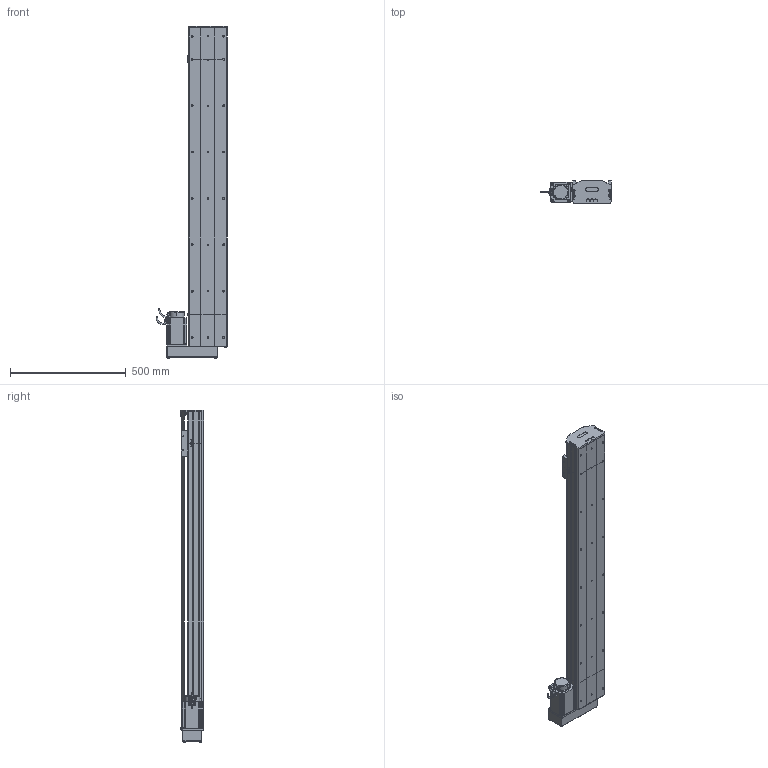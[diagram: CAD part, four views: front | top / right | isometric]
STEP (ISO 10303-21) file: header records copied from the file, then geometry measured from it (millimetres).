
FILE_DESCRIPTION (( 'STEP AP214' ), '1' );
FILE_NAME ('D17 TSN BR S1100.STEP', '2010-06-30T07:50:08', ( 'Christophe Gaillard' ), ( 'SGA' ), 'SwSTEP 2.0', 'SolidWorks 2010', '' );
FILE_SCHEMA (( 'AUTOMOTIVE_DESIGN' ));
Length unit declared in the file: millimetre
Products named in the file (33): tete d''axe haut D17; Conecteur2_Default; codeur 90BLDC125-640; avant 90BLDC125A-640; Moteur motionking 90BLDC125A-640; corps 90BLDC125A-640; vis M5 L5_Default; Arbre+rail head D17; plaque de  bout BM head D17_Default; vis M5 L25_Default; vis M5 L8 90°_Default; couvercle D17_Default; couvercle D17 head_Default; corpl head D17 BM_Default; head BR_Default; Arbre+rail tail D17; guide D17; vis M5 L12_Default; renvoi BR_Default; Vis M5 L16-2_Default; Chariot D17 TBN; chariot D17 TSN; Cvis M5 L70_Default; Conecteur_Default; arbre + rail D17 Course 1100 ; course 1100 D17_Default; D17 TSN BR S1100; Tail D17+L100_Default; couvercle D17 course L1100_Default; corp D17 1100_Default; tete d''axe bas D17; plaque de  bout tail D17_Default; corpl tail D17+L100_Default
Assembly tree (51 placements, depth 4):
  D17 TSN BR S1100
    Tail D17+L100_Default
      vis M5 L25_Default  x2
      couvercle D17_Default
      plaque de  bout tail D17_Default
      vis M5 L12_Default  x4
      vis M5 L8 90°_Default  x2
      corpl tail D17+L100_Default
      tete d''axe haut D17
      tete d''axe bas D17
      Arbre+rail tail D17
    chariot D17 TSN
      Chariot D17 TBN
      guide D17  x2
    head BR_Default
      vis M5 L12_Default  x8
      Vis M5 L16-2_Default  x4
      renvoi BR_Default
      vis M5 L5_Default  x2
      couvercle D17 head_Default
      Cvis M5 L70_Default  x2
      plaque de  bout BM head D17_Default
      Moteur motionking 90BLDC125A-640
        codeur 90BLDC125-640
        corps 90BLDC125A-640
        avant 90BLDC125A-640
        Conecteur_Default
        Conecteur2_Default
      Arbre+rail head D17
      corpl head D17 BM_Default
    course 1100 D17_Default
      corp D17 1100_Default
      arbre + rail D17 Course 1100 
      couvercle D17 course L1100_Default
Bounding box: 308.95 x 99.7 x 1432.7 mm (x, y, z)
Volume: 9130326.7 mm3; surface area: 2345589.4 mm2
Topology: 75 solids, 75 shells, 2155 faces, 5492 edges, 3550 vertices
Faces by surface type: plane 1326, cylinder 568, bspline 136, torus 65, cone 56, sphere 4
Entity records: 72445 total; most frequent: CARTESIAN_POINT 22813, ORIENTED_EDGE 8892, DIRECTION 8283, EDGE_CURVE 4446, LINE 3071, VECTOR 3071, VERTEX_POINT 2916, AXIS2_PLACEMENT_3D 2606
